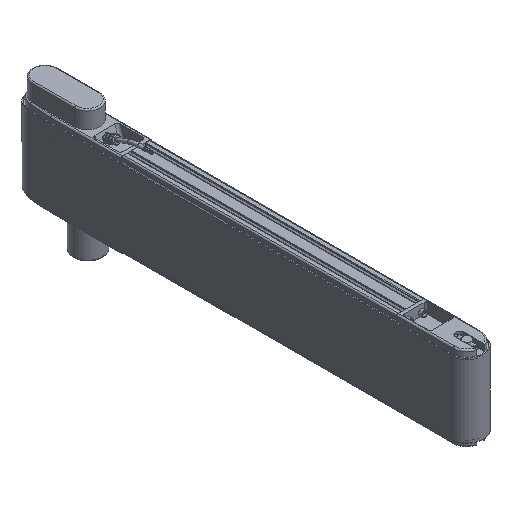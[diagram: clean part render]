
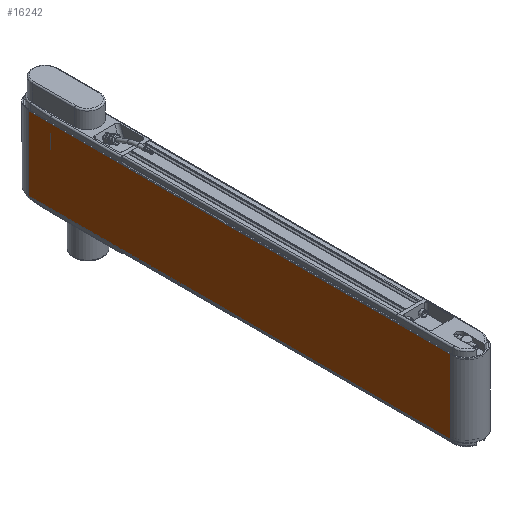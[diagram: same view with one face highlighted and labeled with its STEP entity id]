
A CAD part, isometric view. The second image highlights one B-rep face of the part: STEP entity #16242.
In plain terms, the highlighted planar face has unit normal (-1, 0, 0).
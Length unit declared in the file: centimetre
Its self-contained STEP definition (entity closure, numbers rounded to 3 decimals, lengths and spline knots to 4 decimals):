
#514=PLANE('',#17311);
#1177=FACE_OUTER_BOUND('',#2076,.T.);
#2076=EDGE_LOOP('',(#10974,#10975,#10976,#10977));
#3094=LINE('',#24166,#4352);
#3095=LINE('',#24171,#4353);
#3097=LINE('',#24175,#4355);
#3098=LINE('',#24176,#4356);
#4352=VECTOR('',#19441,1.);
#4353=VECTOR('',#19446,1.);
#4355=VECTOR('',#19450,1.);
#4356=VECTOR('',#19451,1.);
#6515=VERTEX_POINT('',#24160);
#6517=VERTEX_POINT('',#24164);
#6519=VERTEX_POINT('',#24169);
#6520=VERTEX_POINT('',#24174);
#8244=EDGE_CURVE('',#6515,#6517,#3094,.T.);
#8246=EDGE_CURVE('',#6519,#6517,#3095,.T.);
#8248=EDGE_CURVE('',#6519,#6520,#3097,.T.);
#8249=EDGE_CURVE('',#6520,#6515,#3098,.T.);
#10974=ORIENTED_EDGE('',*,*,#8248,.T.);
#10975=ORIENTED_EDGE('',*,*,#8249,.T.);
#10976=ORIENTED_EDGE('',*,*,#8244,.T.);
#10977=ORIENTED_EDGE('',*,*,#8246,.F.);
#16242=ADVANCED_FACE('',(#1177),#514,.T.);
#17311=AXIS2_PLACEMENT_3D('',#24173,#19448,#19449);
#19441=DIRECTION('',(0.,1.,0.));
#19446=DIRECTION('',(0.,0.,1.));
#19448=DIRECTION('center_axis',(-1.,0.,0.));
#19449=DIRECTION('ref_axis',(0.,0.,
1.));
#19450=DIRECTION('',(0.,-1.,0.));
#19451=DIRECTION('',(0.,0.,1.));
#24160=CARTESIAN_POINT('',(-2.33,-47.,5.25));
#24164=CARTESIAN_POINT('',(-2.33,13.,5.25));
#24166=CARTESIAN_POINT('',(-2.33,13.,5.25));
#24169=CARTESIAN_POINT('',(-2.33,13.,-5.25));
#24171=CARTESIAN_POINT('',(-2.33,13.,0.));
#24173=CARTESIAN_POINT('Origin',(-2.33,13.,0.));
#24174=CARTESIAN_POINT('',(-2.33,-47.,-5.25));
#24175=CARTESIAN_POINT('',(-2.33,13.,-5.25));
#24176=CARTESIAN_POINT('',(-2.33,-47.,0.));
